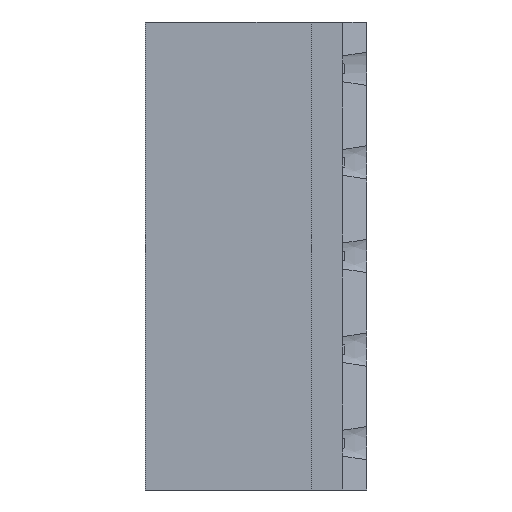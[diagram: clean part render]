
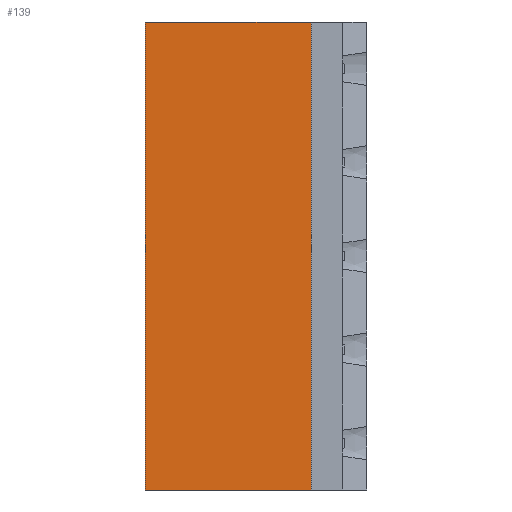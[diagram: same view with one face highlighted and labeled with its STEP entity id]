
A CAD part, left-side view. The second image highlights one B-rep face of the part: STEP entity #139.
In plain terms, the highlighted planar face has unit normal (-1, 0, 0).
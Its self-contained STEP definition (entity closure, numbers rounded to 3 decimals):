
#62 = LINE ( 'NONE', #9957, #10226 ) ;
#73 = LINE ( 'NONE', #5910, #12143 ) ;
#139 = ADVANCED_FACE ( 'NONE', ( #999 ), #211, .T. ) ;
#148 = DIRECTION ( 'NONE',  ( -1., 0., 0. ) ) ;
#211 = PLANE ( 'NONE',  #395 ) ;
#346 = VECTOR ( 'NONE', #6012, 1000. ) ;
#350 = DIRECTION ( 'NONE',  ( 0., 0., 1. ) ) ;
#395 = AXIS2_PLACEMENT_3D ( 'NONE', #8258, #148, #2178 ) ;
#459 = VERTEX_POINT ( 'NONE', #11204 ) ;
#470 = EDGE_CURVE ( 'NONE', #11427, #10204, #62, .T. ) ;
#999 = FACE_OUTER_BOUND ( 'NONE', #2716, .T. ) ;
#1106 = VECTOR ( 'NONE', #350, 1000. ) ;
#1326 = CARTESIAN_POINT ( 'NONE',  ( -3.9, 12., 0. ) ) ;
#2049 = EDGE_CURVE ( 'NONE', #12892, #459, #73, .T. ) ;
#2178 = DIRECTION ( 'NONE',  ( 0., 0., 1. ) ) ;
#2716 = EDGE_LOOP ( 'NONE', ( #7682, #11735, #8522, #8931 ) ) ;
#4642 = LINE ( 'NONE', #8627, #346 ) ;
#5910 = CARTESIAN_POINT ( 'NONE',  ( -3.9, 12., 0. ) ) ;
#6012 = DIRECTION ( 'NONE',  ( 0., 0., -1. ) ) ;
#7497 = EDGE_CURVE ( 'NONE', #12892, #11427, #10299, .T. ) ;
#7682 = ORIENTED_EDGE ( 'NONE', *, *, #2049, .T. ) ;
#7918 = DIRECTION ( 'NONE',  ( 0., -1., 0. ) ) ;
#8258 = CARTESIAN_POINT ( 'NONE',  ( -3.9, 12., 0. ) ) ;
#8522 = ORIENTED_EDGE ( 'NONE', *, *, #470, .F. ) ;
#8545 = CARTESIAN_POINT ( 'NONE',  ( -3.9, 3., 25.4 ) ) ;
#8627 = CARTESIAN_POINT ( 'NONE',  ( -3.9, 3., 25.4 ) ) ;
#8738 = CARTESIAN_POINT ( 'NONE',  ( -3.9, 12., 25.4 ) ) ;
#8931 = ORIENTED_EDGE ( 'NONE', *, *, #7497, .F. ) ;
#9512 = CARTESIAN_POINT ( 'NONE',  ( -3.9, 12., 0. ) ) ;
#9837 = DIRECTION ( 'NONE',  ( 0., -1., 0. ) ) ;
#9957 = CARTESIAN_POINT ( 'NONE',  ( -3.9, 12., 25.4 ) ) ;
#10204 = VERTEX_POINT ( 'NONE', #8545 ) ;
#10226 = VECTOR ( 'NONE', #7918, 1000. ) ;
#10299 = LINE ( 'NONE', #1326, #1106 ) ;
#11026 = EDGE_CURVE ( 'NONE', #10204, #459, #4642, .T. ) ;
#11204 = CARTESIAN_POINT ( 'NONE',  ( -3.9, 3., 0. ) ) ;
#11427 = VERTEX_POINT ( 'NONE', #8738 ) ;
#11735 = ORIENTED_EDGE ( 'NONE', *, *, #11026, .F. ) ;
#12143 = VECTOR ( 'NONE', #9837, 1000. ) ;
#12892 = VERTEX_POINT ( 'NONE', #9512 ) ;
